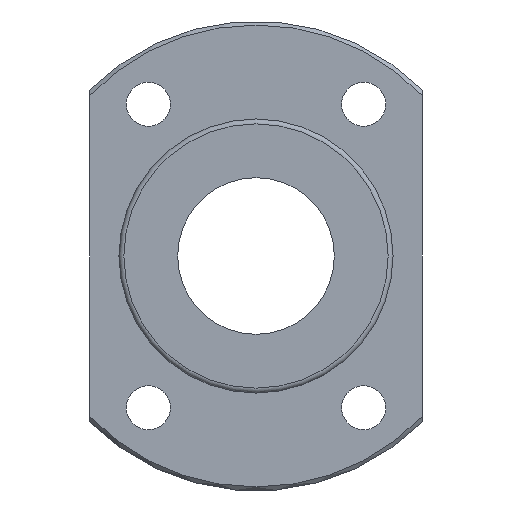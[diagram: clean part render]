
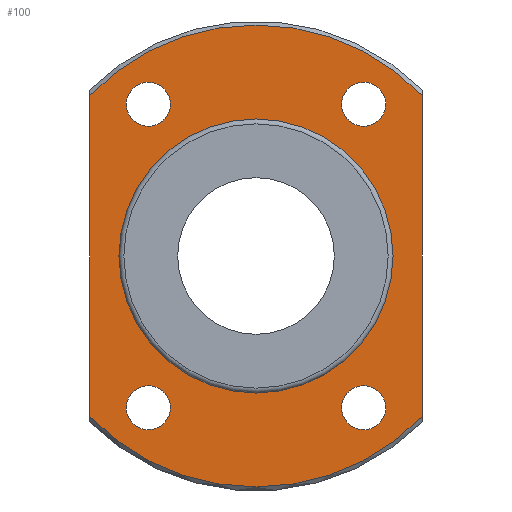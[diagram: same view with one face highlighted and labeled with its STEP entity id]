
A CAD part, left-side view. The second image highlights one B-rep face of the part: STEP entity #100.
In plain terms, the highlighted planar face has unit normal (-1, 0, 0).
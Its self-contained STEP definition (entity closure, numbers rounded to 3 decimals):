
#100=ADVANCED_FACE('',(#185,#186,#187,#188,#189,#190),#191,.T.);
#185=FACE_BOUND('',#284,.T.);
#186=FACE_BOUND('',#285,.T.);
#187=FACE_BOUND('',#286,.T.);
#188=FACE_BOUND('',#287,.T.);
#189=FACE_BOUND('',#288,.T.);
#190=FACE_OUTER_BOUND('',#289,.T.);
#191=PLANE('',#290);
#284=EDGE_LOOP('',(#453));
#285=EDGE_LOOP('',(#454));
#286=EDGE_LOOP('',(#455));
#287=EDGE_LOOP('',(#456));
#288=EDGE_LOOP('',(#457));
#289=EDGE_LOOP('',(#458,#459,#460,#461));
#290=AXIS2_PLACEMENT_3D('',#462,#463,#464);
#453=ORIENTED_EDGE('',*,*,#550,.F.);
#454=ORIENTED_EDGE('',*,*,#546,.F.);
#455=ORIENTED_EDGE('',*,*,#542,.F.);
#456=ORIENTED_EDGE('',*,*,#538,.F.);
#457=ORIENTED_EDGE('',*,*,#556,.F.);
#458=ORIENTED_EDGE('',*,*,#520,.T.);
#459=ORIENTED_EDGE('',*,*,#525,.T.);
#460=ORIENTED_EDGE('',*,*,#557,.T.);
#461=ORIENTED_EDGE('',*,*,#511,.T.);
#462=CARTESIAN_POINT('',(-6.0,18.55,0.));
#463=DIRECTION('',(-1.0,0.,0.));
#464=DIRECTION('',(0.,0.0,1.0));
#511=EDGE_CURVE('',#565,#562,#566,.T.);
#520=EDGE_CURVE('',#562,#580,#582,.T.);
#525=EDGE_CURVE('',#580,#589,#592,.T.);
#538=EDGE_CURVE('',#616,#616,#617,.T.);
#542=EDGE_CURVE('',#624,#624,#625,.T.);
#546=EDGE_CURVE('',#632,#632,#633,.T.);
#550=EDGE_CURVE('',#640,#640,#641,.T.);
#556=EDGE_CURVE('',#650,#650,#651,.T.);
#557=EDGE_CURVE('',#589,#565,#652,.T.);
#562=VERTEX_POINT('',#658);
#565=VERTEX_POINT('',#664);
#566=LINE('',#665,#666);
#580=VERTEX_POINT('',#692);
#582=CIRCLE('',#697,23.6);
#589=VERTEX_POINT('',#704);
#592=LINE('',#710,#711);
#616=VERTEX_POINT('',#744);
#617=CIRCLE('',#745,2.25);
#624=VERTEX_POINT('',#752);
#625=CIRCLE('',#753,2.25);
#632=VERTEX_POINT('',#760);
#633=CIRCLE('',#761,2.25);
#640=VERTEX_POINT('',#768);
#641=CIRCLE('',#769,2.25);
#650=VERTEX_POINT('',#778);
#651=CIRCLE('',#779,13.5);
#652=CIRCLE('',#780,23.6);
#658=CARTESIAN_POINT('',(-6.0,17.0,-16.369));
#664=CARTESIAN_POINT('',(-6.0,17.0,16.369));
#665=CARTESIAN_POINT('',(-6.0,17.0,0.));
#666=VECTOR('',#786,1.0);
#692=CARTESIAN_POINT('',(-6.0,-17.0,-16.369));
#697=AXIS2_PLACEMENT_3D('',#793,#794,#795);
#704=CARTESIAN_POINT('',(-6.0,-17.0,16.369));
#710=CARTESIAN_POINT('',(-6.0,-17.0,0.));
#711=VECTOR('',#805,1.0);
#744=CARTESIAN_POINT('',(-6.0,-11.0,17.75));
#745=AXIS2_PLACEMENT_3D('',#830,#831,#832);
#752=CARTESIAN_POINT('',(-6.0,11.0,17.75));
#753=AXIS2_PLACEMENT_3D('',#842,#843,#844);
#760=CARTESIAN_POINT('',(-6.0,11.0,-13.25));
#761=AXIS2_PLACEMENT_3D('',#854,#855,#856);
#768=CARTESIAN_POINT('',(-6.0,-11.0,-13.25));
#769=AXIS2_PLACEMENT_3D('',#866,#867,#868);
#778=CARTESIAN_POINT('',(-6.0,13.5,0.));
#779=AXIS2_PLACEMENT_3D('',#884,#885,#886);
#780=AXIS2_PLACEMENT_3D('',#887,#888,#889);
#786=DIRECTION('',(0.,0.0,-1.0));
#793=CARTESIAN_POINT('',(-6.0,0.,0.));
#794=DIRECTION('',(-1.0,0.0,0.));
#795=DIRECTION('',(0.0,1.0,0.0));
#805=DIRECTION('',(0.,0.0,1.0));
#830=CARTESIAN_POINT('',(-6.0,-11.0,15.5));
#831=DIRECTION('',(-1.0,0.,0.));
#832=DIRECTION('',(0.,0.0,1.0));
#842=CARTESIAN_POINT('',(-6.0,11.0,15.5));
#843=DIRECTION('',(-1.0,0.,0.));
#844=DIRECTION('',(0.,0.0,1.0));
#854=CARTESIAN_POINT('',(-6.0,11.0,-15.5));
#855=DIRECTION('',(-1.0,0.,0.));
#856=DIRECTION('',(0.,0.0,1.0));
#866=CARTESIAN_POINT('',(-6.0,-11.0,-15.5));
#867=DIRECTION('',(-1.0,0.,0.));
#868=DIRECTION('',(0.,0.0,1.0));
#884=CARTESIAN_POINT('',(-6.0,0.,0.));
#885=DIRECTION('',(-1.0,0.0,0.));
#886=DIRECTION('',(0.0,1.0,0.0));
#887=CARTESIAN_POINT('',(-6.0,0.,0.));
#888=DIRECTION('',(-1.0,0.0,0.));
#889=DIRECTION('',(0.0,1.0,0.0));
